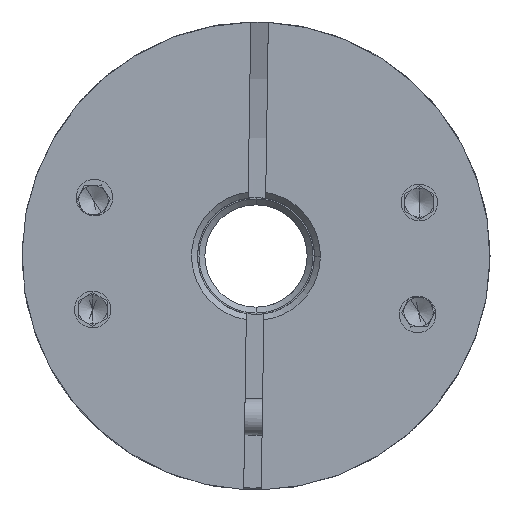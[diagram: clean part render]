
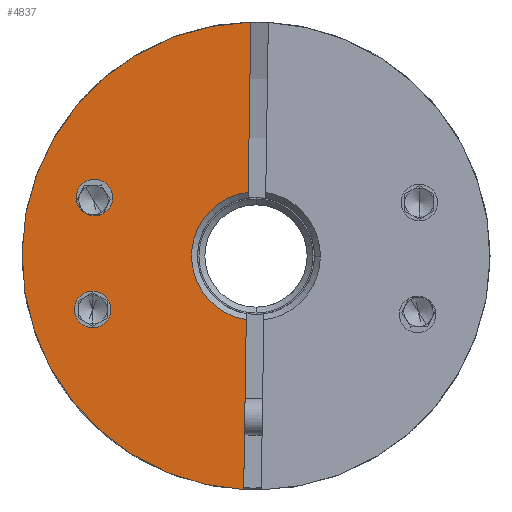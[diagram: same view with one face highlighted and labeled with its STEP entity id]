
A CAD part, front view. The second image highlights one B-rep face of the part: STEP entity #4837.
In plain terms, the highlighted planar face has unit normal (0, -1, 0).
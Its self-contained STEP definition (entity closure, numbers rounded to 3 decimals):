
#1176 = DIRECTION ( 'NONE',  ( 0., 1., 0. ) ) ;
#1313 = VECTOR ( 'NONE', #10667, 1000. ) ;
#1523 = EDGE_CURVE ( 'NONE', #6533, #14271, #10028, .T. ) ;
#1564 = AXIS2_PLACEMENT_3D ( 'NONE', #8314, #2883, #17946 ) ;
#2032 = CARTESIAN_POINT ( 'NONE',  ( -59.178, -19.411, 0. ) ) ;
#2080 = DIRECTION ( 'NONE',  ( 0., 1., 0. ) ) ;
#2779 = CARTESIAN_POINT ( 'NONE',  ( -59.687, -19.411, 6.008 ) ) ;
#2883 = DIRECTION ( 'NONE',  ( 0., -1., 0. ) ) ;
#3247 = DIRECTION ( 'NONE',  ( 0., -1., 0. ) ) ;
#3933 = EDGE_LOOP ( 'NONE', ( #4762, #12796 ) ) ;
#4762 = ORIENTED_EDGE ( 'NONE', *, *, #19191, .T. ) ;
#4837 = ADVANCED_FACE ( 'NONE', ( #19430, #9515, #10095 ), #6822, .T. ) ;
#4921 = CARTESIAN_POINT ( 'NONE',  ( -70.345, -19.411, -3.656 ) ) ;
#5372 = EDGE_CURVE ( 'NONE', #8745, #15612, #7166, .T. ) ;
#5682 = DIRECTION ( 'NONE',  ( 1., 0., -0.015 ) ) ;
#5786 = CARTESIAN_POINT ( 'NONE',  ( -71.595, -19.411, -3.637 ) ) ;
#5987 = AXIS2_PLACEMENT_3D ( 'NONE', #9433, #18805, #16947 ) ;
#6005 = CARTESIAN_POINT ( 'NONE',  ( -59.535, -19.411, 15.996 ) ) ;
#6116 = AXIS2_PLACEMENT_3D ( 'NONE', #24197, #11149, #5682 ) ;
#6289 = AXIS2_PLACEMENT_3D ( 'NONE', #22706, #2080, #15222 ) ;
#6533 = VERTEX_POINT ( 'NONE', #14757 ) ;
#6822 = PLANE ( 'NONE',  #9439 ) ;
#6909 = ORIENTED_EDGE ( 'NONE', *, *, #8244, .T. ) ;
#6988 = DIRECTION ( 'NONE',  ( 1., 0., -0.015 ) ) ;
#7028 = CIRCLE ( 'NONE', #1564, 16. ) ;
#7166 = CIRCLE ( 'NONE', #15253, 1.25 ) ;
#7253 = VERTEX_POINT ( 'NONE', #12253 ) ;
#7265 = ORIENTED_EDGE ( 'NONE', *, *, #18653, .T. ) ;
#7328 = VERTEX_POINT ( 'NONE', #15770 ) ;
#8244 = EDGE_CURVE ( 'NONE', #8944, #8506, #7028, .T. ) ;
#8314 = CARTESIAN_POINT ( 'NONE',  ( -59.178, -19.411, 0. ) ) ;
#8457 = CIRCLE ( 'NONE', #6289, 1.25 ) ;
#8506 = VERTEX_POINT ( 'NONE', #16591 ) ;
#8745 = VERTEX_POINT ( 'NONE', #5786 ) ;
#8944 = VERTEX_POINT ( 'NONE', #6005 ) ;
#9433 = CARTESIAN_POINT ( 'NONE',  ( -59.178, -19.411, 0. ) ) ;
#9439 = AXIS2_PLACEMENT_3D ( 'NONE', #14419, #3247, #6988 ) ;
#9515 = FACE_BOUND ( 'NONE', #3933, .T. ) ;
#10028 = CIRCLE ( 'NONE', #10622, 1.25 ) ;
#10095 = FACE_BOUND ( 'NONE', #16685, .T. ) ;
#10622 = AXIS2_PLACEMENT_3D ( 'NONE', #14213, #16168, #20080 ) ;
#10667 = DIRECTION ( 'NONE',  ( -0.015, 0., -1. ) ) ;
#10684 = CARTESIAN_POINT ( 'NONE',  ( -71.479, -19.411, 4.013 ) ) ;
#11149 = DIRECTION ( 'NONE',  ( 0., 1., 0. ) ) ;
#11336 = ORIENTED_EDGE ( 'NONE', *, *, #18760, .T. ) ;
#11475 = AXIS2_PLACEMENT_3D ( 'NONE', #2032, #16878, #17027 ) ;
#12253 = CARTESIAN_POINT ( 'NONE',  ( -59.712, -19.411, 4.368 ) ) ;
#12289 = EDGE_CURVE ( 'NONE', #15612, #8745, #8457, .T. ) ;
#12539 = DIRECTION ( 'NONE',  ( 1., 0., -0.015 ) ) ;
#12746 = VECTOR ( 'NONE', #13870, 1000. ) ;
#12796 = ORIENTED_EDGE ( 'NONE', *, *, #1523, .T. ) ;
#13732 = ORIENTED_EDGE ( 'NONE', *, *, #18271, .F. ) ;
#13839 = CIRCLE ( 'NONE', #6116, 1.25 ) ;
#13870 = DIRECTION ( 'NONE',  ( -0.015, 0., -1. ) ) ;
#13913 = ORIENTED_EDGE ( 'NONE', *, *, #12289, .T. ) ;
#13928 = ORIENTED_EDGE ( 'NONE', *, *, #5372, .T. ) ;
#14213 = CARTESIAN_POINT ( 'NONE',  ( -70.229, -19.411, 3.994 ) ) ;
#14271 = VERTEX_POINT ( 'NONE', #10684 ) ;
#14419 = CARTESIAN_POINT ( 'NONE',  ( -59.178, -19.411, 0. ) ) ;
#14757 = CARTESIAN_POINT ( 'NONE',  ( -68.979, -19.411, 3.975 ) ) ;
#15222 = DIRECTION ( 'NONE',  ( 1., 0., -0.015 ) ) ;
#15253 = AXIS2_PLACEMENT_3D ( 'NONE', #4921, #1176, #12539 ) ;
#15612 = VERTEX_POINT ( 'NONE', #22861 ) ;
#15770 = CARTESIAN_POINT ( 'NONE',  ( -59.844, -19.411, -4.349 ) ) ;
#16168 = DIRECTION ( 'NONE',  ( 0., 1., 0. ) ) ;
#16365 = EDGE_CURVE ( 'NONE', #8944, #7253, #19111, .T. ) ;
#16591 = CARTESIAN_POINT ( 'NONE',  ( -75.176, -19.411, 0.243 ) ) ;
#16685 = EDGE_LOOP ( 'NONE', ( #13928, #13913 ) ) ;
#16878 = DIRECTION ( 'NONE',  ( 0., -1., 0. ) ) ;
#16947 = DIRECTION ( 'NONE',  ( 1., 0., -0.015 ) ) ;
#17027 = DIRECTION ( 'NONE',  ( 1., 0., -0.015 ) ) ;
#17635 = CIRCLE ( 'NONE', #5987, 4.4 ) ;
#17946 = DIRECTION ( 'NONE',  ( 1., 0., -0.015 ) ) ;
#18271 = EDGE_CURVE ( 'NONE', #7328, #21580, #18535, .T. ) ;
#18303 = EDGE_LOOP ( 'NONE', ( #13732, #11336, #21092, #6909, #7265 ) ) ;
#18417 = CARTESIAN_POINT ( 'NONE',  ( -59.687, -19.411, 6.008 ) ) ;
#18535 = LINE ( 'NONE', #2779, #12746 ) ;
#18653 = EDGE_CURVE ( 'NONE', #8506, #21580, #23213, .T. ) ;
#18760 = EDGE_CURVE ( 'NONE', #7328, #7253, #17635, .T. ) ;
#18805 = DIRECTION ( 'NONE',  ( 0., 1., 0. ) ) ;
#19111 = LINE ( 'NONE', #18417, #1313 ) ;
#19191 = EDGE_CURVE ( 'NONE', #14271, #6533, #13839, .T. ) ;
#19430 = FACE_OUTER_BOUND ( 'NONE', #18303, .T. ) ;
#20080 = DIRECTION ( 'NONE',  ( 1., 0., -0.015 ) ) ;
#21092 = ORIENTED_EDGE ( 'NONE', *, *, #16365, .F. ) ;
#21580 = VERTEX_POINT ( 'NONE', #23934 ) ;
#22706 = CARTESIAN_POINT ( 'NONE',  ( -70.345, -19.411, -3.656 ) ) ;
#22861 = CARTESIAN_POINT ( 'NONE',  ( -69.095, -19.411, -3.675 ) ) ;
#23213 = CIRCLE ( 'NONE', #11475, 16. ) ;
#23934 = CARTESIAN_POINT ( 'NONE',  ( -60.021, -19.411, -15.978 ) ) ;
#24197 = CARTESIAN_POINT ( 'NONE',  ( -70.229, -19.411, 3.994 ) ) ;
